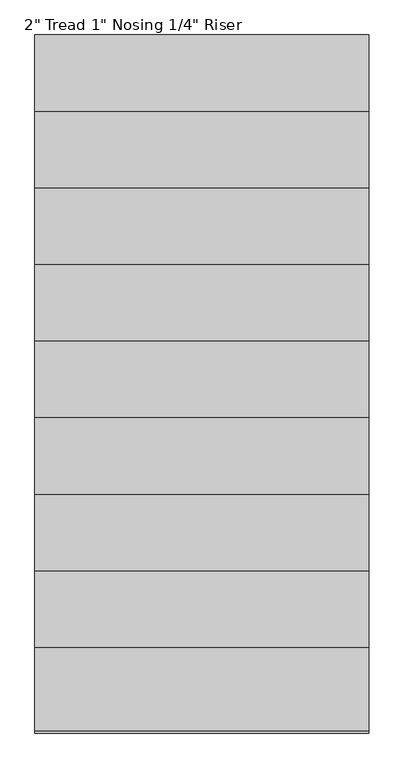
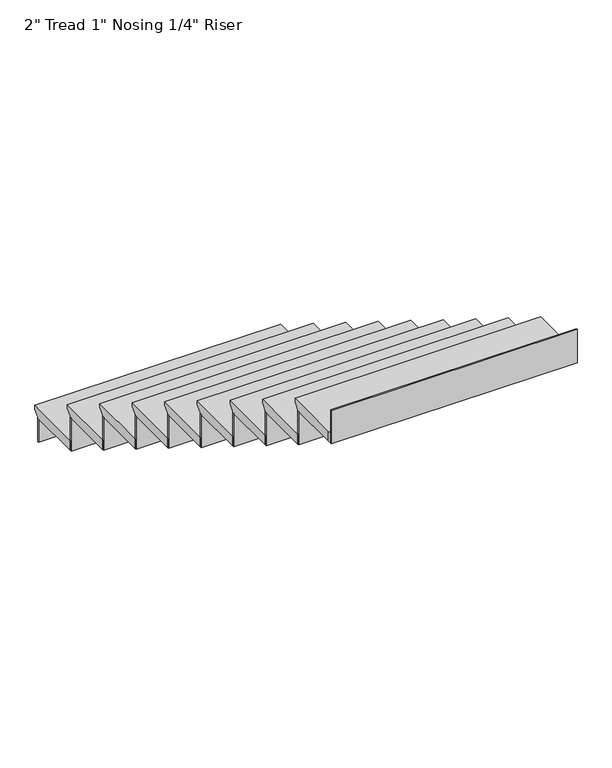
"""IFC4 building model written with IfcOpenShell, lengths in millimetres: stair flight geometry."""

import ifcopenshell
import ifcopenshell.guid

model = None  # the IFC model being written
_history = None  # IfcOwnerHistory: only IFC2X3 demands one
_inside = {}  # id of a spatial element -> (the spatial element, [elements in it])
_under = {}  # id of a project, library or spatial element -> (it, [spatial elements below it])
_declared = {}  # id of a project -> (the project, [libraries it declares])
_typed = {}  # id of a type object -> (the type object, [elements of that type])
_made_of = {}  # id of a material, layer set ... -> (it, [elements and type objects made of it])


def new_model(schema):
    """Start an empty IFC model of exactly this schema.

    Asked for "IFC4X3", IfcOpenShell would pick the latest addendum, in which some entities
    have other attributes; the version numbers below select the first issue.
    IFC2X3 requires an IfcOwnerHistory on every rooted entity: one is made here for all.
    """
    global model, _history
    if schema == "IFC4X3":
        model = ifcopenshell.file(schema_version=(4, 3, 0, 0))
    else:
        model = ifcopenshell.file(schema=schema)
    _inside.clear()
    _under.clear()
    _declared.clear()
    _typed.clear()
    _made_of.clear()
    _history = None
    if model.schema == "IFC2X3":
        org = make("IfcOrganization", Name="unknown")
        user = make(
            "IfcPersonAndOrganization",
            ThePerson=make("IfcPerson", FamilyName="unknown"),
            TheOrganization=org,
        )
        app = make(
            "IfcApplication",
            ApplicationDeveloper=org,
            Version="unknown",
            ApplicationFullName="unknown",
            ApplicationIdentifier="unknown",
        )
        _history = make(
            "IfcOwnerHistory",
            OwningUser=user,
            OwningApplication=app,
            ChangeAction="ADDED",
            CreationDate=0,
        )
    return model


def make(cls, **values):
    """One entity of the class cls with the attributes given. An attribute that is None is left unset."""
    return model.create_entity(
        cls, **{name: value for name, value in values.items() if value is not None}
    )


def rooted(cls, **values):
    """An entity with a GlobalId (a new one), such as an element, a storey or a relation."""
    return make(cls, GlobalId=ifcopenshell.guid.new(), OwnerHistory=_history, **values)


def si_unit(unit_type, name, prefix=None):
    """IfcSIUnit, for example si_unit("LENGTHUNIT", "METRE", prefix="MILLI")."""
    return make("IfcSIUnit", UnitType=unit_type, Prefix=prefix, Name=name)


def assignment(units):
    """IfcUnitAssignment: the units of a project."""
    return None if units is None else make("IfcUnitAssignment", Units=units)


def point(xyz):
    """IfcCartesianPoint."""
    return None if xyz is None else make("IfcCartesianPoint", Coordinates=xyz)


def direction(xyz):
    """IfcDirection."""
    return None if xyz is None else make("IfcDirection", DirectionRatios=xyz)


def frame(location, z_axis=None, x_axis=None):
    """IfcAxis2Placement3D, a coordinate frame: its origin and axes. An axis left out is left unset."""
    return make(
        "IfcAxis2Placement3D",
        Location=point(location),
        Axis=direction(z_axis),
        RefDirection=direction(x_axis),
    )


def origin():
    """The frame at (0, 0, 0) with its axes left unset."""
    return frame((0.0, 0.0, 0.0))


def place(relative_to, where):
    """IfcLocalPlacement: puts the frame where relative to a parent placement (None: the world)."""
    return make(
        "IfcLocalPlacement", PlacementRelTo=relative_to, RelativePlacement=where
    )


def context(
    kind, dimensions, precision=None, world=None, true_north=None, identifier=None
):
    """IfcGeometricRepresentationContext, for example the 3D "Model" context."""
    return make(
        "IfcGeometricRepresentationContext",
        ContextIdentifier=identifier,
        ContextType=kind,
        CoordinateSpaceDimension=dimensions,
        Precision=precision,
        WorldCoordinateSystem=world,
        TrueNorth=true_north,
    )


def project(units=None, contexts=None):
    """IfcProject with its units and contexts."""
    return rooted(
        "IfcProject",
        Name="project",
        RepresentationContexts=contexts,
        UnitsInContext=assignment(units),
    )


def spatial(cls, under=None, at=None, **own):
    """A site, building, storey or space (cls), placed at a placement, below another one or the project."""
    s = rooted(cls, ObjectPlacement=at, **own)
    if under is not None:
        _under.setdefault(under.id(), (under, []))[1].append(s)
    return s


def faces_of(points, faces, orient=None, outer=None):
    """IfcFace entities. A face is a list of loops; a loop is a list of indices into points, from 0.

    orient and outer hold one flag for each loop. By default every Orientation is true, the
    first loop of a face is its IfcFaceOuterBound and the others are IfcFaceBound.
    """
    made = []
    for i, loops in enumerate(faces):
        bounds = []
        for j, loop in enumerate(loops):
            is_outer = j == 0 if outer is None else outer[i][j]
            bounds.append(
                make(
                    "IfcFaceOuterBound" if is_outer else "IfcFaceBound",
                    Bound=make("IfcPolyLoop", Polygon=[points[k] for k in loop]),
                    Orientation=True if orient is None else orient[i][j],
                )
            )
        made.append(make("IfcFace", Bounds=bounds))
    return made


def faceted_brep(points, faces, orient=None, outer=None, voids=None):
    """IfcFacetedBrep: a solid bounded by flat faces; with voids (closed shells), ...WithVoids."""
    shared = [point(p) for p in points]
    hull = make("IfcClosedShell", CfsFaces=faces_of(shared, faces, orient, outer))
    if voids is None:
        return make("IfcFacetedBrep", Outer=hull)
    return make(
        "IfcFacetedBrepWithVoids",
        Outer=hull,
        Voids=[
            make(cls, CfsFaces=faces_of(shared, fs, o, b)) for cls, fs, o, b in voids
        ],
    )


def shape(context_of_items, identifier, shape_type, items):
    """IfcShapeRepresentation: the items that make up one representation, for example the "Body"."""
    return make(
        "IfcShapeRepresentation",
        ContextOfItems=context_of_items,
        RepresentationIdentifier=identifier,
        RepresentationType=shape_type,
        Items=items,
    )


def source(mapping_origin, context_of_items, identifier, shape_type, items):
    """IfcRepresentationMap: a shape defined once, which mapped items show again and again."""
    return make(
        "IfcRepresentationMap",
        MappingOrigin=mapping_origin,
        MappedRepresentation=shape(context_of_items, identifier, shape_type, items),
    )


def transform(
    local_origin,
    x_axis=None,
    y_axis=None,
    z_axis=None,
    scale=None,
    scale2=None,
    scale3=None,
    uniform=True,
):
    """IfcCartesianTransformationOperator3D, or its non-uniform kind. x_axis, y_axis, z_axis: its Axis1, 2, 3."""
    if uniform:
        return make(
            "IfcCartesianTransformationOperator3D",
            Axis1=direction(x_axis),
            Axis2=direction(y_axis),
            LocalOrigin=point(local_origin),
            Scale=scale,
            Axis3=direction(z_axis),
        )
    return make(
        "IfcCartesianTransformationOperator3DnonUniform",
        Axis1=direction(x_axis),
        Axis2=direction(y_axis),
        LocalOrigin=point(local_origin),
        Scale=scale,
        Axis3=direction(z_axis),
        Scale2=scale2,
        Scale3=scale3,
    )


def mapped(mapping_source, mapping_target):
    """IfcMappedItem: shows the shape of a source again, moved by a transform."""
    return make(
        "IfcMappedItem", MappingSource=mapping_source, MappingTarget=mapping_target
    )


def made_of(thing, what):
    """Note that an element or type object is made of a material, layer set ...; save() writes the relation."""
    if what is not None:
        _made_of.setdefault(what.id(), (what, []))[1].append(thing)
    return thing


def element(
    cls,
    number,
    at=None,
    inside=None,
    cuts=None,
    type_object=None,
    material=None,
    context=None,
    identifier="Body",
    shape_type=None,
    held_by="IfcProductDefinitionShape",
    body=None,
    shapes=None,
    **own,
):
    """One element of the class cls, such as IfcWall. Its Tag is "e" and its number.

    at: its placement. inside: the storey or other place that contains it. cuts: it is an
    opening in that element (IfcRelVoidsElement). A single representation is given by context,
    identifier, shape_type and body (its items); several are given by shapes. held_by: the class
    of the entity that holds the representations. save() writes the other relations.
    """
    e = rooted(cls, Tag="e%d" % number, ObjectPlacement=at, **own)
    if body is not None:
        shapes = [shape(context, identifier, shape_type, body)]
    if shapes is not None:
        e.Representation = make(held_by, Representations=shapes)
    if inside is not None:
        _inside.setdefault(inside.id(), (inside, []))[1].append(e)
    if cuts is not None:
        rooted(
            "IfcRelVoidsElement", RelatingBuildingElement=cuts, RelatedOpeningElement=e
        )
    if type_object is not None:
        _typed.setdefault(type_object.id(), (type_object, []))[1].append(e)
    return made_of(e, material)


def aggregate(whole, parts):
    """IfcRelAggregates: a whole, such as a stair, and the parts it consists of."""
    return rooted("IfcRelAggregates", RelatingObject=whole, RelatedObjects=parts)


def save(model, path):
    """Write the relations noted so far, then the file.

    IfcRelAggregates (storeys below a building ...), IfcRelContainedInSpatialStructure (elements
    in a storey), IfcRelDefinesByType, IfcRelAssociatesMaterial and IfcRelDeclares: one each for
    every whole, place, type object, material and project.
    """
    for whole, parts in _under.values():
        aggregate(whole, parts)
    for where, things in _inside.values():
        rooted(
            "IfcRelContainedInSpatialStructure",
            RelatedElements=things,
            RelatingStructure=where,
        )
    for kind, things in _typed.values():
        rooted("IfcRelDefinesByType", RelatedObjects=things, RelatingType=kind)
    for what, things in _made_of.values():
        rooted("IfcRelAssociatesMaterial", RelatedObjects=things, RelatingMaterial=what)
    for by, libraries in _declared.values():
        rooted("IfcRelDeclares", RelatingContext=by, RelatedDefinitions=libraries)
    model.write(path)


def stair_flight_a3a9bd27(model_context):
    return source(origin(), model_context, "Body", "Brep", [
        faceted_brep([(28280.5816981, 25025.7332157, 155.1214286), (28280.5816981, 25025.7332157, 174.1714286), (29499.7816981, 25025.7332157, 174.1714286), (29499.7816981, 25025.7332157, 155.1214286), (28280.5816981, 25000.3332157, 129.7214286), (29499.7816981, 25000.3332157, 129.7214286), (28280.5816981, 24720.9332157, 174.1714286), (29499.7816981, 24720.9332157, 174.1714286), (29499.7816981, 25000.3332157, 123.3714286), (29499.7816981, 24720.9332157, 123.3714286), (28280.5816981, 24720.9332157, 123.3714286), (28280.5816981, 25000.3332157, 123.3714286)], [[[0, 1, 2, 3]], [[4, 0, 3, 5]], [[2, 1, 6, 7]], [[8, 9, 10, 11]], [[2, 7, 9, 8, 5, 3]], [[8, 11, 4, 5]], [[6, 1, 0, 4, 11, 10]], [[7, 6, 10, 9]]]),
        faceted_brep([(28280.5816981, 25000.3332157, 123.3714286), (28280.5816981, 25000.3332157, 0.0), (28280.5816981, 24993.9832157, 0.0), (28280.5816981, 24993.9832157, 123.3714286), (29499.7816981, 25000.3332157, 123.3714286), (29499.7816981, 24993.9832157, 123.3714286), (29499.7816981, 24993.9832157, 0.0), (29499.7816981, 25000.3332157, 0.0)], [[[0, 1, 2, 3]], [[4, 5, 6, 7]], [[1, 0, 4, 7]], [[2, 1, 7, 6]], [[3, 2, 6, 5]], [[0, 3, 5, 4]]]),
        faceted_brep([(28280.5816981, 24720.9332157, 297.5428571), (28280.5816981, 24720.9332157, 123.3714286), (28280.5816981, 24714.5832157, 123.3714286), (28280.5816981, 24714.5832157, 297.5428571), (29499.7816981, 24720.9332157, 297.5428571), (29499.7816981, 24714.5832157, 297.5428571), (29499.7816981, 24714.5832157, 123.3714286), (29499.7816981, 24720.9332157, 123.3714286)], [[[0, 1, 2, 3]], [[4, 5, 6, 7]], [[1, 0, 4, 7]], [[2, 1, 7, 6]], [[3, 2, 6, 5]], [[0, 3, 5, 4]]]),
        faceted_brep([(29499.7816981, 24746.3332157, 348.3428571), (28280.5816981, 24746.3332157, 348.3428571), (28280.5816981, 24441.5332157, 348.3428571), (29499.7816981, 24441.5332157, 348.3428571), (29499.7816981, 24720.9332157, 297.5428571), (29499.7816981, 24441.5332157, 297.5428571), (28280.5816981, 24441.5332157, 297.5428571), (28280.5816981, 24720.9332157, 297.5428571), (29499.7816981, 24720.9332157, 303.8928571), (29499.7816981, 24746.3332157, 329.2928571), (28280.5816981, 24720.9332157, 303.8928571), (28280.5816981, 24746.3332157, 329.2928571)], [[[0, 1, 2, 3]], [[4, 5, 6, 7]], [[0, 3, 5, 4, 8, 9]], [[4, 7, 10, 8]], [[2, 1, 11, 10, 7, 6]], [[3, 2, 6, 5]], [[11, 1, 0, 9]], [[10, 11, 9, 8]]]),
        faceted_brep([(28280.5816981, 24441.5332157, 471.7142857), (28280.5816981, 24441.5332157, 297.5428571), (28280.5816981, 24435.1832157, 297.5428571), (28280.5816981, 24435.1832157, 471.7142857), (29499.7816981, 24441.5332157, 471.7142857), (29499.7816981, 24435.1832157, 471.7142857), (29499.7816981, 24435.1832157, 297.5428571), (29499.7816981, 24441.5332157, 297.5428571)], [[[0, 1, 2, 3]], [[4, 5, 6, 7]], [[1, 0, 4, 7]], [[2, 1, 7, 6]], [[3, 2, 6, 5]], [[0, 3, 5, 4]]]),
        faceted_brep([(29499.7816981, 24466.9332157, 522.5142857), (28280.5816981, 24466.9332157, 522.5142857), (28280.5816981, 24162.1332157, 522.5142857), (29499.7816981, 24162.1332157, 522.5142857), (29499.7816981, 24441.5332157, 471.7142857), (29499.7816981, 24162.1332157, 471.7142857), (28280.5816981, 24162.1332157, 471.7142857), (28280.5816981, 24441.5332157, 471.7142857), (29499.7816981, 24441.5332157, 478.0642857), (29499.7816981, 24466.9332157, 503.4642857), (28280.5816981, 24441.5332157, 478.0642857), (28280.5816981, 24466.9332157, 503.4642857)], [[[0, 1, 2, 3]], [[4, 5, 6, 7]], [[0, 3, 5, 4, 8, 9]], [[4, 7, 10, 8]], [[2, 1, 11, 10, 7, 6]], [[3, 2, 6, 5]], [[11, 1, 0, 9]], [[10, 11, 9, 8]]]),
        faceted_brep([(28280.5816981, 24162.1332157, 645.8857143), (28280.5816981, 24162.1332157, 471.7142857), (28280.5816981, 24155.7832157, 471.7142857), (28280.5816981, 24155.7832157, 645.8857143), (29499.7816981, 24162.1332157, 645.8857143), (29499.7816981, 24155.7832157, 645.8857143), (29499.7816981, 24155.7832157, 471.7142857), (29499.7816981, 24162.1332157, 471.7142857)], [[[0, 1, 2, 3]], [[4, 5, 6, 7]], [[1, 0, 4, 7]], [[2, 1, 7, 6]], [[3, 2, 6, 5]], [[0, 3, 5, 4]]]),
        faceted_brep([(29499.7816981, 24187.5332157, 696.6857143), (28280.5816981, 24187.5332157, 696.6857143), (28280.5816981, 23882.7332157, 696.6857143), (29499.7816981, 23882.7332157, 696.6857143), (29499.7816981, 24162.1332157, 645.8857143), (29499.7816981, 23882.7332157, 645.8857143), (28280.5816981, 23882.7332157, 645.8857143), (28280.5816981, 24162.1332157, 645.8857143), (29499.7816981, 24162.1332157, 652.2357143), (29499.7816981, 24187.5332157, 677.6357143), (28280.5816981, 24162.1332157, 652.2357143), (28280.5816981, 24187.5332157, 677.6357143)], [[[0, 1, 2, 3]], [[4, 5, 6, 7]], [[0, 3, 5, 4, 8, 9]], [[4, 7, 10, 8]], [[2, 1, 11, 10, 7, 6]], [[3, 2, 6, 5]], [[11, 1, 0, 9]], [[10, 11, 9, 8]]]),
        faceted_brep([(28280.5816981, 23882.7332157, 820.0571429), (28280.5816981, 23882.7332157, 645.8857143), (28280.5816981, 23876.3832157, 645.8857143), (28280.5816981, 23876.3832157, 820.0571429), (29499.7816981, 23882.7332157, 820.0571429), (29499.7816981, 23876.3832157, 820.0571429), (29499.7816981, 23876.3832157, 645.8857143), (29499.7816981, 23882.7332157, 645.8857143)], [[[0, 1, 2, 3]], [[4, 5, 6, 7]], [[1, 0, 4, 7]], [[2, 1, 7, 6]], [[3, 2, 6, 5]], [[0, 3, 5, 4]]]),
        faceted_brep([(29499.7816981, 23908.1332157, 870.8571429), (28280.5816981, 23908.1332157, 870.8571429), (28280.5816981, 23603.3332157, 870.8571429), (29499.7816981, 23603.3332157, 870.8571429), (29499.7816981, 23882.7332157, 820.0571429), (29499.7816981, 23603.3332157, 820.0571429), (28280.5816981, 23603.3332157, 820.0571429), (28280.5816981, 23882.7332157, 820.0571429), (29499.7816981, 23882.7332157, 826.4071429), (29499.7816981, 23908.1332157, 851.8071429), (28280.5816981, 23882.7332157, 826.4071429), (28280.5816981, 23908.1332157, 851.8071429)], [[[0, 1, 2, 3]], [[4, 5, 6, 7]], [[0, 3, 5, 4, 8, 9]], [[4, 7, 10, 8]], [[2, 1, 11, 10, 7, 6]], [[3, 2, 6, 5]], [[11, 1, 0, 9]], [[10, 11, 9, 8]]]),
        faceted_brep([(28280.5816981, 23603.3332157, 994.2285714), (28280.5816981, 23603.3332157, 820.0571429), (28280.5816981, 23596.9832157, 820.0571429), (28280.5816981, 23596.9832157, 994.2285714), (29499.7816981, 23603.3332157, 994.2285714), (29499.7816981, 23596.9832157, 994.2285714), (29499.7816981, 23596.9832157, 820.0571429), (29499.7816981, 23603.3332157, 820.0571429)], [[[0, 1, 2, 3]], [[4, 5, 6, 7]], [[1, 0, 4, 7]], [[2, 1, 7, 6]], [[3, 2, 6, 5]], [[0, 3, 5, 4]]]),
        faceted_brep([(29499.7816981, 23628.7332157, 1045.0285714), (28280.5816981, 23628.7332157, 1045.0285714), (28280.5816981, 23323.9332157, 1045.0285714), (29499.7816981, 23323.9332157, 1045.0285714), (29499.7816981, 23603.3332157, 994.2285714), (29499.7816981, 23323.9332157, 994.2285714), (28280.5816981, 23323.9332157, 994.2285714), (28280.5816981, 23603.3332157, 994.2285714), (29499.7816981, 23603.3332157, 1000.5785714), (29499.7816981, 23628.7332157, 1025.9785714), (28280.5816981, 23603.3332157, 1000.5785714), (28280.5816981, 23628.7332157, 1025.9785714)], [[[0, 1, 2, 3]], [[4, 5, 6, 7]], [[0, 3, 5, 4, 8, 9]], [[4, 7, 10, 8]], [[2, 1, 11, 10, 7, 6]], [[3, 2, 6, 5]], [[11, 1, 0, 9]], [[10, 11, 9, 8]]]),
        faceted_brep([(28280.5816981, 23323.9332157, 1168.4), (28280.5816981, 23323.9332157, 994.2285714), (28280.5816981, 23317.5832157, 994.2285714), (28280.5816981, 23317.5832157, 1168.4), (29499.7816981, 23323.9332157, 1168.4), (29499.7816981, 23317.5832157, 1168.4), (29499.7816981, 23317.5832157, 994.2285714), (29499.7816981, 23323.9332157, 994.2285714)], [[[0, 1, 2, 3]], [[4, 5, 6, 7]], [[1, 0, 4, 7]], [[2, 1, 7, 6]], [[3, 2, 6, 5]], [[0, 3, 5, 4]]]),
        faceted_brep([(29499.7816981, 23349.3332157, 1219.2), (28280.5816981, 23349.3332157, 1219.2), (28280.5816981, 23044.5332157, 1219.2), (29499.7816981, 23044.5332157, 1219.2), (29499.7816981, 23323.9332157, 1168.4), (29499.7816981, 23044.5332157, 1168.4), (28280.5816981, 23044.5332157, 1168.4), (28280.5816981, 23323.9332157, 1168.4), (29499.7816981, 23323.9332157, 1174.75), (29499.7816981, 23349.3332157, 1200.15), (28280.5816981, 23323.9332157, 1174.75), (28280.5816981, 23349.3332157, 1200.15)], [[[0, 1, 2, 3]], [[4, 5, 6, 7]], [[0, 3, 5, 4, 8, 9]], [[4, 7, 10, 8]], [[2, 1, 11, 10, 7, 6]], [[3, 2, 6, 5]], [[11, 1, 0, 9]], [[10, 11, 9, 8]]]),
        faceted_brep([(28280.5816981, 23044.5332157, 1342.5714286), (28280.5816981, 23044.5332157, 1168.4), (28280.5816981, 23038.1832157, 1168.4), (28280.5816981, 23038.1832157, 1342.5714286), (29499.7816981, 23044.5332157, 1342.5714286), (29499.7816981, 23038.1832157, 1342.5714286), (29499.7816981, 23038.1832157, 1168.4), (29499.7816981, 23044.5332157, 1168.4)], [[[0, 1, 2, 3]], [[4, 5, 6, 7]], [[1, 0, 4, 7]], [[2, 1, 7, 6]], [[3, 2, 6, 5]], [[0, 3, 5, 4]]]),
        faceted_brep([(29499.7816981, 23069.9332157, 1393.3714286), (28280.5816981, 23069.9332157, 1393.3714286), (28280.5816981, 22765.1332157, 1393.3714286), (29499.7816981, 22765.1332157, 1393.3714286), (29499.7816981, 23044.5332157, 1342.5714286), (29499.7816981, 22765.1332157, 1342.5714286), (28280.5816981, 22765.1332157, 1342.5714286), (28280.5816981, 23044.5332157, 1342.5714286), (29499.7816981, 23044.5332157, 1348.9214286), (29499.7816981, 23069.9332157, 1374.3214286), (28280.5816981, 23044.5332157, 1348.9214286), (28280.5816981, 23069.9332157, 1374.3214286)], [[[0, 1, 2, 3]], [[4, 5, 6, 7]], [[0, 3, 5, 4, 8, 9]], [[4, 7, 10, 8]], [[2, 1, 11, 10, 7, 6]], [[3, 2, 6, 5]], [[11, 1, 0, 9]], [[10, 11, 9, 8]]]),
        faceted_brep([(28280.5816981, 22485.7332157, 1690.9142857), (28280.5816981, 22485.7332157, 1516.7428571), (28280.5816981, 22479.3832157, 1516.7428571), (28280.5816981, 22479.3832157, 1690.9142857), (29499.7816981, 22485.7332157, 1690.9142857), (29499.7816981, 22479.3832157, 1690.9142857), (29499.7816981, 22479.3832157, 1516.7428571), (29499.7816981, 22485.7332157, 1516.7428571)], [[[0, 1, 2, 3]], [[4, 5, 6, 7]], [[1, 0, 4, 7]], [[2, 1, 7, 6]], [[3, 2, 6, 5]], [[0, 3, 5, 4]]]),
        faceted_brep([(28280.5816981, 22765.1332157, 1516.7428571), (28280.5816981, 22765.1332157, 1342.5714286), (28280.5816981, 22758.7832157, 1342.5714286), (28280.5816981, 22758.7832157, 1516.7428571), (29499.7816981, 22765.1332157, 1516.7428571), (29499.7816981, 22758.7832157, 1516.7428571), (29499.7816981, 22758.7832157, 1342.5714286), (29499.7816981, 22765.1332157, 1342.5714286)], [[[0, 1, 2, 3]], [[4, 5, 6, 7]], [[1, 0, 4, 7]], [[2, 1, 7, 6]], [[3, 2, 6, 5]], [[0, 3, 5, 4]]]),
        faceted_brep([(29499.7816981, 22485.7332157, 1567.5428571), (29499.7816981, 22511.1332157, 1567.5428571), (29499.7816981, 22790.5332157, 1567.5428571), (28280.5816981, 22790.5332157, 1567.5428571), (28280.5816981, 22511.1332157, 1567.5428571), (28280.5816981, 22485.7332157, 1567.5428571), (29499.7816981, 22511.1332157, 1516.7428571), (29499.7816981, 22485.7332157, 1516.7428571), (28280.5816981, 22485.7332157, 1516.7428571), (28280.5816981, 22511.1332157, 1516.7428571), (28280.5816981, 22765.1332157, 1516.7428571), (29499.7816981, 22765.1332157, 1516.7428571), (28280.5816981, 22765.1332157, 1523.0928571), (29499.7816981, 22765.1332157, 1523.0928571), (28280.5816981, 22790.5332157, 1548.4928571), (29499.7816981, 22790.5332157, 1548.4928571)], [[[0, 1, 2, 3, 4, 5]], [[6, 7, 8, 9, 10, 11]], [[1, 0, 7, 6]], [[11, 10, 12, 13]], [[4, 3, 14, 12, 10, 9]], [[5, 4, 9, 8]], [[0, 5, 8, 7]], [[14, 3, 2, 15]], [[12, 14, 15, 13]], [[2, 1, 6, 11, 13, 15]]]),
    ])


if __name__ == "__main__":
    model = new_model("IFC4")
    model_context = context("Model", 3, world=origin())
    ifc_project = project(units=[si_unit("LENGTHUNIT", "METRE", prefix="MILLI")], contexts=[model_context])
    site = spatial("IfcSite", under=ifc_project)
    building = spatial("IfcBuilding", under=site)
    placement = place(None, origin())
    stair_flight_shape = stair_flight_a3a9bd27(model_context)
    element("IfcStairFlight", 1, ObjectType="2\" Tread 1\" Nosing 1/4\" Riser", at=placement, inside=building, context=model_context, shape_type="MappedRepresentation", body=[
        mapped(stair_flight_shape, transform((0.0, 0.0, 0.0), x_axis=(1.0, 0.0, 0.0), y_axis=(0.0, 1.0, 0.0), z_axis=(0.0, 0.0, 1.0))),
    ])
    save(model, "model.ifc")
